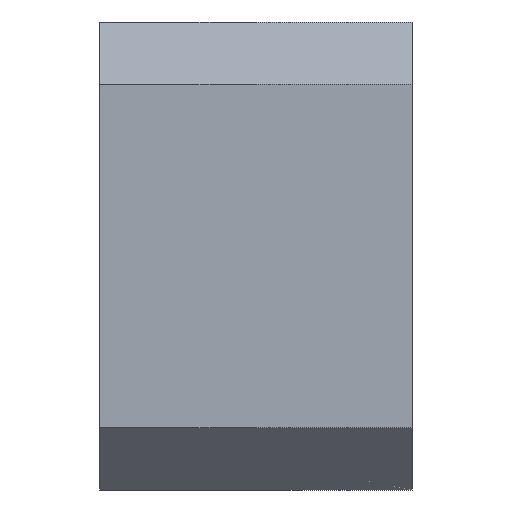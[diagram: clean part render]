
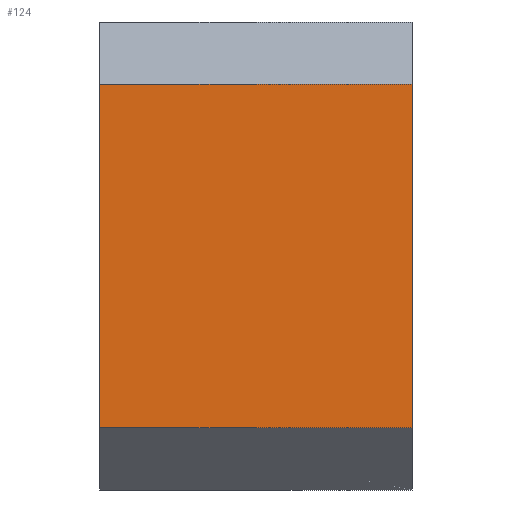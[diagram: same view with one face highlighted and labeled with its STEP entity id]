
A CAD part, left-side view. The second image highlights one B-rep face of the part: STEP entity #124.
In plain terms, the highlighted planar face has unit normal (-1, 0, 0).
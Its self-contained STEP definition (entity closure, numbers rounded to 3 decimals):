
#12 = PLANE ( 'NONE',  #683 ) ;
#14 = DIRECTION ( 'NONE',  ( 0., 1., 0. ) ) ;
#72 = DIRECTION ( 'NONE',  ( 0., 0., 1. ) ) ;
#124 = ADVANCED_FACE ( 'NONE', ( #665 ), #12, .F. ) ;
#143 = LINE ( 'NONE', #457, #300 ) ;
#148 = VECTOR ( 'NONE', #182, 1000. ) ;
#179 = LINE ( 'NONE', #551, #148 ) ;
#182 = DIRECTION ( 'NONE',  ( 0., 0., 1. ) ) ;
#215 = VECTOR ( 'NONE', #700, 1000. ) ;
#237 = CARTESIAN_POINT ( 'NONE',  ( -17., 5., 5.5 ) ) ;
#254 = CARTESIAN_POINT ( 'NONE',  ( -17., 5., -5.5 ) ) ;
#262 = VERTEX_POINT ( 'NONE', #579 ) ;
#284 = CARTESIAN_POINT ( 'NONE',  ( -17., -5., 5.5 ) ) ;
#291 = DIRECTION ( 'NONE',  ( 1., 0., 0. ) ) ;
#300 = VECTOR ( 'NONE', #72, 1000. ) ;
#307 = VECTOR ( 'NONE', #14, 1000. ) ;
#312 = CARTESIAN_POINT ( 'NONE',  ( -17., -5., -5.5 ) ) ;
#337 = LINE ( 'NONE', #543, #307 ) ;
#371 = VERTEX_POINT ( 'NONE', #284 ) ;
#391 = VERTEX_POINT ( 'NONE', #237 ) ;
#456 = ORIENTED_EDGE ( 'NONE', *, *, #629, .T. ) ;
#457 = CARTESIAN_POINT ( 'NONE',  ( -17., 5., -7.5 ) ) ;
#543 = CARTESIAN_POINT ( 'NONE',  ( -17., 5., 5.5 ) ) ;
#551 = CARTESIAN_POINT ( 'NONE',  ( -17., -5., -7.5 ) ) ;
#569 = ORIENTED_EDGE ( 'NONE', *, *, #601, .F. ) ;
#579 = CARTESIAN_POINT ( 'NONE',  ( -17., 5., -5.5 ) ) ;
#594 = EDGE_LOOP ( 'NONE', ( #569, #648, #653, #456 ) ) ;
#601 = EDGE_CURVE ( 'NONE', #262, #391, #143, .T. ) ;
#612 = EDGE_CURVE ( 'NONE', #671, #371, #179, .T. ) ;
#618 = LINE ( 'NONE', #254, #215 ) ;
#629 = EDGE_CURVE ( 'NONE', #371, #391, #337, .T. ) ;
#648 = ORIENTED_EDGE ( 'NONE', *, *, #675, .T. ) ;
#653 = ORIENTED_EDGE ( 'NONE', *, *, #612, .T. ) ;
#665 = FACE_OUTER_BOUND ( 'NONE', #594, .T. ) ;
#669 = CARTESIAN_POINT ( 'NONE',  ( -17., 5., -7.5 ) ) ;
#671 = VERTEX_POINT ( 'NONE', #312 ) ;
#675 = EDGE_CURVE ( 'NONE', #262, #671, #618, .T. ) ;
#680 = DIRECTION ( 'NONE',  ( 0., 0., -1. ) ) ;
#683 = AXIS2_PLACEMENT_3D ( 'NONE', #669, #291, #680 ) ;
#700 = DIRECTION ( 'NONE',  ( 0., -1., 0. ) ) ;
